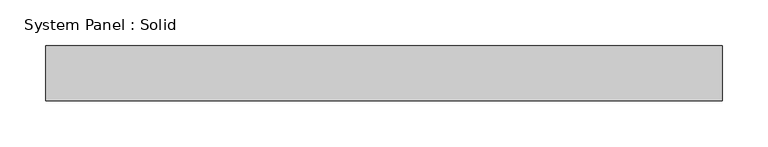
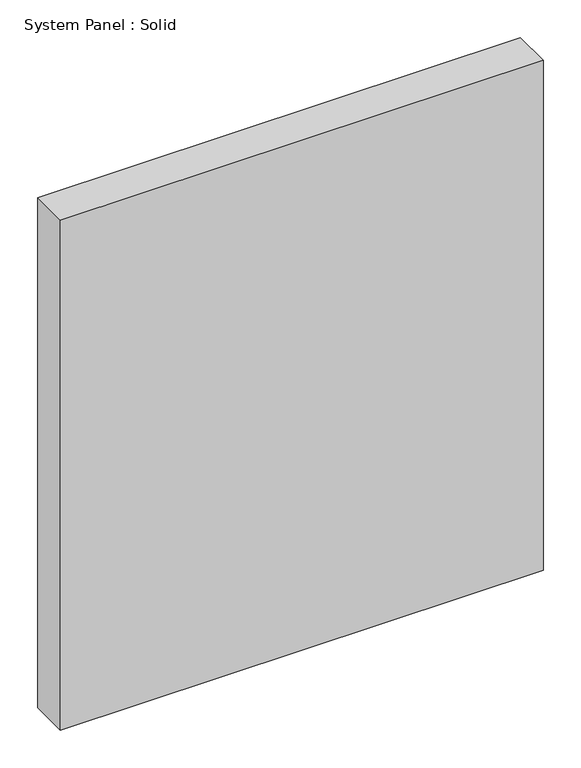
"""IFC4 building model written with IfcOpenShell, lengths in millimetres: plate geometry, System Panel : Solid."""

from ifc_helpers import new_model, si_unit, origin, origin_with_axes, place, context, project, spatial, polyline, outline, extrude, source, transform, mapped, element, save


def system_panel_solid_9ac85d2e(model_context):
    return source(origin(), model_context, "Body", "SweptSolid", [
        extrude(outline(polyline([(369.1666666, -10.5), (-369.1666666, -10.5), (-369.1666666, 49.5), (369.1666666, 49.5), (369.1666666, -10.5)])), origin_with_axes(), (0.0, 0.0, 1.0), 825.0),
    ])


if __name__ == "__main__":
    model = new_model("IFC4")
    model_context = context("Model", 3, world=origin())
    ifc_project = project(units=[si_unit("LENGTHUNIT", "METRE", prefix="MILLI")], contexts=[model_context])
    site = spatial("IfcSite", under=ifc_project)
    building = spatial("IfcBuilding", under=site)
    placement = place(None, origin())
    system_panel_solid_shape = system_panel_solid_9ac85d2e(model_context)
    element("IfcPlate", 1, ObjectType="System Panel : Solid", at=placement, inside=building, context=model_context, shape_type="MappedRepresentation", body=[
        mapped(system_panel_solid_shape, transform((0.0, 0.0, 0.0), x_axis=(1.0, 0.0, 0.0), y_axis=(0.0, 1.0, 0.0), z_axis=(0.0, 0.0, 1.0))),
    ])
    save(model, "model.ifc")
